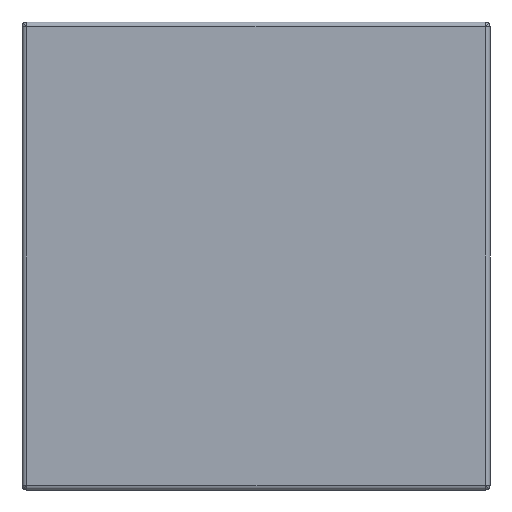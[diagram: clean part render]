
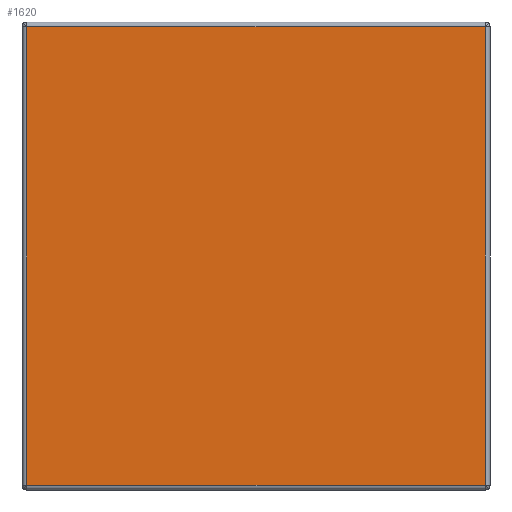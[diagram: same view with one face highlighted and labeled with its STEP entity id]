
A CAD part, front view. The second image highlights one B-rep face of the part: STEP entity #1620.
In plain terms, the highlighted planar face has unit normal (0, -1, 0).
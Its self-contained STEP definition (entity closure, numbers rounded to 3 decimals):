
#28 = EDGE_CURVE ( 'NONE', #3661, #1947, #312, .T. ) ;
#175 = ORIENTED_EDGE ( 'NONE', *, *, #1266, .F. ) ;
#186 = AXIS2_PLACEMENT_3D ( 'NONE', #3731, #2428, #433 ) ;
#312 = LINE ( 'NONE', #917, #2422 ) ;
#375 = CARTESIAN_POINT ( 'NONE',  ( -97.7, -185.1, 97.7 ) ) ;
#433 = DIRECTION ( 'NONE',  ( 0., 0., -1. ) ) ;
#455 = CARTESIAN_POINT ( 'NONE',  ( 0., -185.1, 97.7 ) ) ;
#569 = VECTOR ( 'NONE', #1399, 1000. ) ;
#741 = ORIENTED_EDGE ( 'NONE', *, *, #28, .F. ) ;
#917 = CARTESIAN_POINT ( 'NONE',  ( -97.7, -185.1, 0. ) ) ;
#1165 = DIRECTION ( 'NONE',  ( 0., 0., -1. ) ) ;
#1239 = EDGE_CURVE ( 'NONE', #3010, #3661, #3496, .T. ) ;
#1266 = EDGE_CURVE ( 'NONE', #1947, #3186, #2088, .T. ) ;
#1370 = ORIENTED_EDGE ( 'NONE', *, *, #3676, .F. ) ;
#1396 = CARTESIAN_POINT ( 'NONE',  ( 97.7, -185.1, -97.7 ) ) ;
#1399 = DIRECTION ( 'NONE',  ( 1., 0., 0. ) ) ;
#1441 = CARTESIAN_POINT ( 'NONE',  ( 97.7, -185.1, 0. ) ) ;
#1620 = ADVANCED_FACE ( 'NONE', ( #1767 ), #2845, .F. ) ;
#1767 = FACE_OUTER_BOUND ( 'NONE', #2921, .T. ) ;
#1947 = VERTEX_POINT ( 'NONE', #375 ) ;
#1996 = CARTESIAN_POINT ( 'NONE',  ( 0., -185.1, -97.7 ) ) ;
#2029 = ORIENTED_EDGE ( 'NONE', *, *, #1239, .F. ) ;
#2071 = VECTOR ( 'NONE', #1165, 1000. ) ;
#2088 = LINE ( 'NONE', #455, #569 ) ;
#2422 = VECTOR ( 'NONE', #2754, 1000. ) ;
#2428 = DIRECTION ( 'NONE',  ( 0., 1., 0. ) ) ;
#2588 = DIRECTION ( 'NONE',  ( -1., 0., 0. ) ) ;
#2754 = DIRECTION ( 'NONE',  ( 0., 0., 1. ) ) ;
#2787 = LINE ( 'NONE', #1441, #2071 ) ;
#2845 = PLANE ( 'NONE',  #186 ) ;
#2887 = CARTESIAN_POINT ( 'NONE',  ( -97.7, -185.1, -97.7 ) ) ;
#2921 = EDGE_LOOP ( 'NONE', ( #1370, #175, #741, #2029 ) ) ;
#3010 = VERTEX_POINT ( 'NONE', #1396 ) ;
#3186 = VERTEX_POINT ( 'NONE', #3375 ) ;
#3375 = CARTESIAN_POINT ( 'NONE',  ( 97.7, -185.1, 97.7 ) ) ;
#3496 = LINE ( 'NONE', #1996, #3582 ) ;
#3582 = VECTOR ( 'NONE', #2588, 1000. ) ;
#3661 = VERTEX_POINT ( 'NONE', #2887 ) ;
#3676 = EDGE_CURVE ( 'NONE', #3186, #3010, #2787, .T. ) ;
#3731 = CARTESIAN_POINT ( 'NONE',  ( 97.7, -185.1, 97.7 ) ) ;
